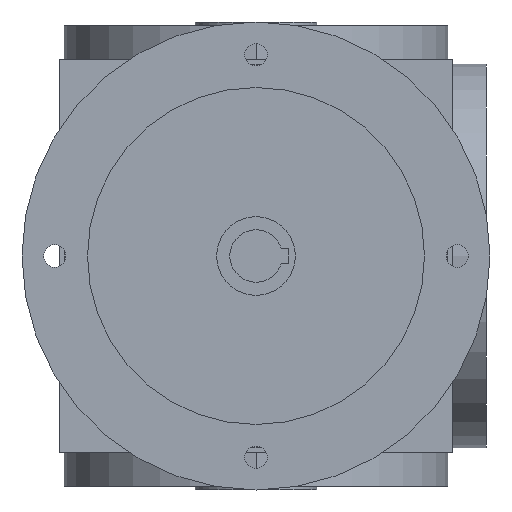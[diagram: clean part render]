
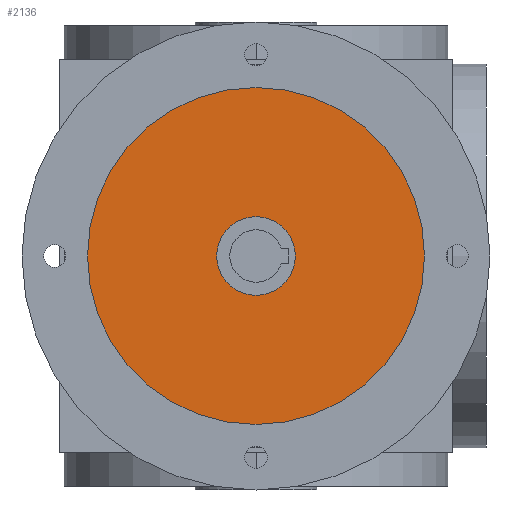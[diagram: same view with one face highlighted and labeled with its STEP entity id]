
A CAD part, front view. The second image highlights one B-rep face of the part: STEP entity #2136.
In plain terms, the highlighted planar face has unit normal (0, -1, 0).
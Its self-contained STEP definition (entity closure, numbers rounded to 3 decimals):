
#7 = EDGE_LOOP ( 'NONE', ( #881, #5148 ) ) ;
#152 = CIRCLE ( 'NONE', #1268, 21. ) ;
#245 = DIRECTION ( 'NONE',  ( 0., 0., 1. ) ) ;
#297 = AXIS2_PLACEMENT_3D ( 'NONE', #5209, #2860, #245 ) ;
#416 = CIRCLE ( 'NONE', #4978, 90. ) ;
#573 = VERTEX_POINT ( 'NONE', #1372 ) ;
#759 = DIRECTION ( 'NONE',  ( 0., 0., 1. ) ) ;
#773 = DIRECTION ( 'NONE',  ( 0., 1., 0. ) ) ;
#808 = DIRECTION ( 'NONE',  ( 0., 1., 0. ) ) ;
#812 = CARTESIAN_POINT ( 'NONE',  ( 0., -240.5, 0. ) ) ;
#881 = ORIENTED_EDGE ( 'NONE', *, *, #3469, .T. ) ;
#1030 = CARTESIAN_POINT ( 'NONE',  ( 0., -240.5, -21. ) ) ;
#1213 = ORIENTED_EDGE ( 'NONE', *, *, #1722, .F. ) ;
#1268 = AXIS2_PLACEMENT_3D ( 'NONE', #4164, #4066, #4047 ) ;
#1372 = CARTESIAN_POINT ( 'NONE',  ( 0., -240.5, 21. ) ) ;
#1722 = EDGE_CURVE ( 'NONE', #4576, #1993, #416, .T. ) ;
#1907 = EDGE_CURVE ( 'NONE', #4016, #573, #152, .T. ) ;
#1993 = VERTEX_POINT ( 'NONE', #2322 ) ;
#2136 = ADVANCED_FACE ( 'NONE', ( #3224, #5205 ), #5203, .T. ) ;
#2175 = EDGE_LOOP ( 'NONE', ( #1213, #4676 ) ) ;
#2322 = CARTESIAN_POINT ( 'NONE',  ( 0., -240.5, -90. ) ) ;
#2534 = AXIS2_PLACEMENT_3D ( 'NONE', #5166, #4417, #4393 ) ;
#2593 = CIRCLE ( 'NONE', #5182, 21. ) ;
#2860 = DIRECTION ( 'NONE',  ( 0., 1., 0. ) ) ;
#3224 = FACE_BOUND ( 'NONE', #7, .T. ) ;
#3380 = CARTESIAN_POINT ( 'NONE',  ( 0., -240.5, 0. ) ) ;
#3469 = EDGE_CURVE ( 'NONE', #573, #4016, #2593, .T. ) ;
#3757 = DIRECTION ( 'NONE',  ( 0., 0., 1. ) ) ;
#4016 = VERTEX_POINT ( 'NONE', #1030 ) ;
#4047 = DIRECTION ( 'NONE',  ( 0., 0., 1. ) ) ;
#4066 = DIRECTION ( 'NONE',  ( 0., 1., 0. ) ) ;
#4164 = CARTESIAN_POINT ( 'NONE',  ( 0., -240.5, 0. ) ) ;
#4393 = DIRECTION ( 'NONE',  ( 0., 0., -1. ) ) ;
#4417 = DIRECTION ( 'NONE',  ( 0., -1., 0. ) ) ;
#4576 = VERTEX_POINT ( 'NONE', #4617 ) ;
#4617 = CARTESIAN_POINT ( 'NONE',  ( 0., -240.5, 90. ) ) ;
#4676 = ORIENTED_EDGE ( 'NONE', *, *, #4895, .F. ) ;
#4895 = EDGE_CURVE ( 'NONE', #1993, #4576, #4903, .T. ) ;
#4903 = CIRCLE ( 'NONE', #297, 90. ) ;
#4978 = AXIS2_PLACEMENT_3D ( 'NONE', #812, #773, #759 ) ;
#5148 = ORIENTED_EDGE ( 'NONE', *, *, #1907, .T. ) ;
#5166 = CARTESIAN_POINT ( 'NONE',  ( 0., -240.5, 90. ) ) ;
#5182 = AXIS2_PLACEMENT_3D ( 'NONE', #3380, #808, #3757 ) ;
#5203 = PLANE ( 'NONE',  #2534 ) ;
#5205 = FACE_OUTER_BOUND ( 'NONE', #2175, .T. ) ;
#5209 = CARTESIAN_POINT ( 'NONE',  ( 0., -240.5, 0. ) ) ;
